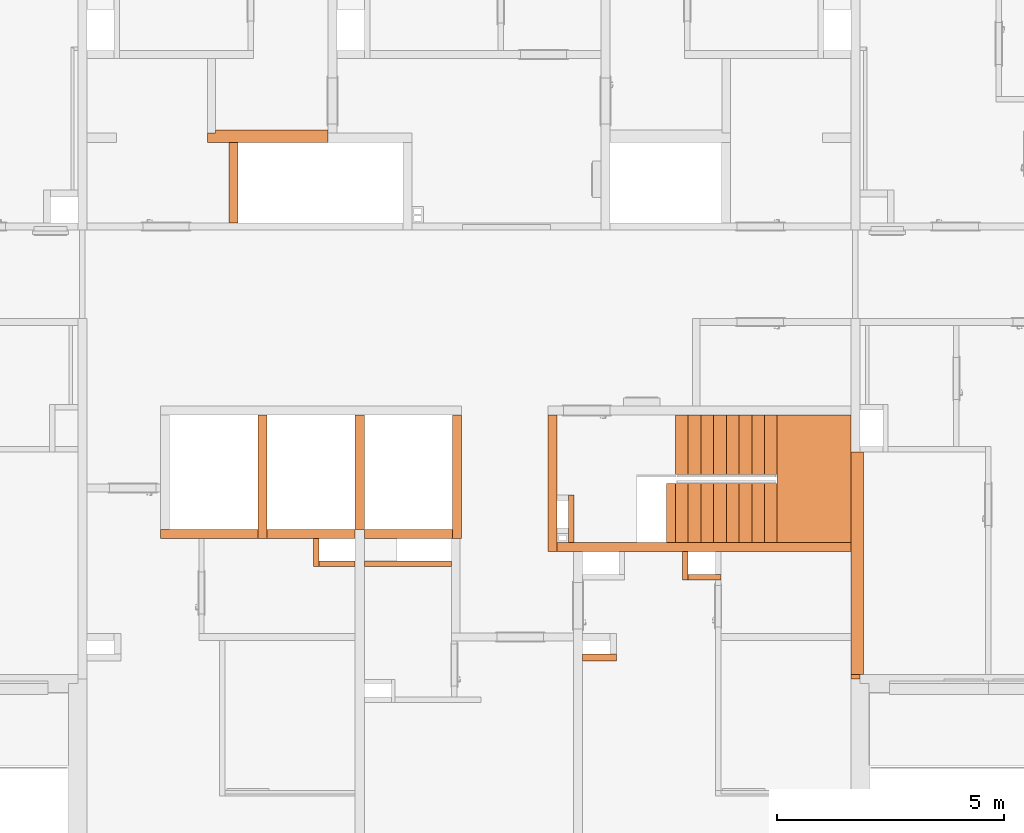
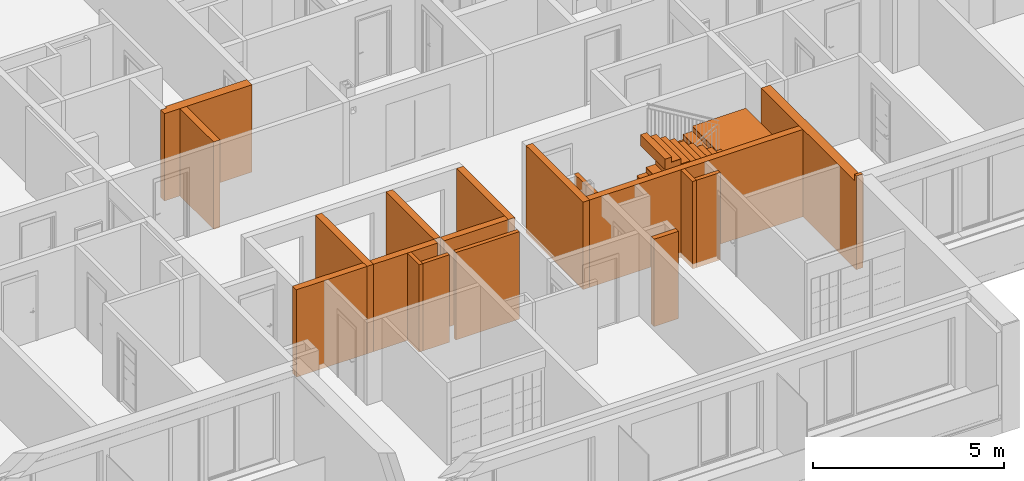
# One storey, part 58 of 67: 17 proxies.
"""IFC2X3 building model written with IfcOpenShell, lengths in millimetres."""

from ifc_helpers import new_model, entity, si_unit, converted_unit, derived_unit, money_unit, direction, frame, origin_with_axes, place, context, subcontext, project, spatial, faceted_brep, material, material_list, type_object, element, save


model = new_model("IFC2X3")

# Units and contexts
model_context = context("Model", 3, precision=0.01, world=origin_with_axes(), true_north=direction((0.34421633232, 0.938890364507)))
body_context = subcontext(model_context, "Body", "Model", "MODEL_VIEW")
ifc_project = project(units=[si_unit("LENGTHUNIT", "METRE", prefix="MILLI"), si_unit("AREAUNIT", "SQUARE_METRE"), si_unit("VOLUMEUNIT", "CUBIC_METRE"), converted_unit("PLANEANGLEUNIT", "DEGREE", entity("IfcPlaneAngleMeasure", 0.0174532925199), si_unit("PLANEANGLEUNIT", "RADIAN"), dimensions=[0, 0, 0, 0, 0, 0, 0]), si_unit("SOLIDANGLEUNIT", "STERADIAN"), money_unit("USD"), converted_unit("TIMEUNIT", "Year", entity("IfcTimeMeasure", 31556926.0), si_unit("TIMEUNIT", "SECOND"), dimensions=[0, 0, 1, 0, 0, 0, 0]), si_unit("MASSUNIT", "GRAM", prefix="KILO"), si_unit("THERMODYNAMICTEMPERATUREUNIT", "DEGREE_CELSIUS"), si_unit("LUMINOUSINTENSITYUNIT", "LUMEN"), si_unit("ENERGYUNIT", "JOULE", prefix="MEGA"), derived_unit("THERMALCONDUCTANCEUNIT", [(si_unit("POWERUNIT", "WATT"), 1), (si_unit("LENGTHUNIT", "METRE"), -1), (si_unit("THERMODYNAMICTEMPERATUREUNIT", "KELVIN"), -1)]), derived_unit("SPECIFICHEATCAPACITYUNIT", [(si_unit("ENERGYUNIT", "JOULE"), 1), (si_unit("MASSUNIT", "GRAM", prefix="KILO"), -1), (si_unit("THERMODYNAMICTEMPERATUREUNIT", "KELVIN"), -1)]), derived_unit("MASSDENSITYUNIT", [(si_unit("MASSUNIT", "GRAM", prefix="KILO"), 1), (si_unit("VOLUMEUNIT", "CUBIC_METRE"), -1)])], contexts=[model_context])

# Site, building, storey
site_placement = place(None, origin_with_axes())
site = spatial("IfcSite", under=ifc_project, at=site_placement, Name="USTRONIE MORSKIE", CompositionType="ELEMENT")
building_placement = place(site_placement, origin_with_axes())
building = spatial("IfcBuilding", under=site, at=building_placement, Name="Budynek", CompositionType="ELEMENT")
storey_placement = place(building_placement, frame((0.0, 0.0, 4000.0), z_axis=(0.0, 0.0, 1.0), x_axis=(1.0, 0.0, 0.0)))
storey = spatial("IfcBuildingStorey", under=building, at=storey_placement, Name="PIĘTRO 1", CompositionType="ELEMENT", Elevation=4000.0)

# Proxies
ifc_material_1 = material(Name="Bloczki silikatowe")
building_element_proxy_type_1 = type_object("IfcBuildingElementProxyType", Name="Bloczki silikatowe 120", PredefinedType="NOTDEFINED")
proxy_1_placement = place(storey_placement, frame((392637.920919, 729201.199036, -160.0), z_axis=(0.0, 0.0, 1.0), x_axis=(1.0, 0.0, 0.0)))
element("IfcBuildingElementProxy", 1, at=proxy_1_placement, inside=storey, type_object=building_element_proxy_type_1, material=ifc_material_1, Name="SW-04", context=body_context, shape_type="Brep", body=[
    faceted_brep([(720.0, -120.0, 2800.0), (720.0, 0.0, 2800.0), (0.0, 0.0, 2800.0), (0.0, -120.0, 2800.0), (720.0, -120.0, 0.0), (720.0, 0.0, 0.0), (0.0, 0.0, 0.0), (0.0, -120.0, 0.0)], [[[0, 1, 2, 3]], [[1, 0, 4, 5]], [[1, 5, 6, 2]], [[7, 3, 2, 6]], [[4, 0, 3, 7]], [[5, 4, 7, 6]]]),
])
proxy_2_placement = place(storey_placement, frame((385417.920919, 729491.199036, -160.0), z_axis=(0.0, 0.0, 1.0), x_axis=(-1.0, 0.0, 0.0)))
element("IfcBuildingElementProxy", 2, at=proxy_2_placement, inside=storey, type_object=building_element_proxy_type_1, material=ifc_material_1, Name="SW-04", context=body_context, shape_type="Brep", body=[
    faceted_brep([(900.00090117, 120.0, 0.0), (900.00090117, 0.0, 0.0), (100.0, 0.0, 0.0), (100.0, 120.0, 0.0), (900.00090117, 120.0, 2800.0), (900.00090117, 0.0, 2800.0), (100.0, 0.0, 2800.0), (100.0, 120.0, 2800.0)], [[[0, 1, 2, 3]], [[1, 0, 4, 5]], [[1, 5, 6, 2]], [[7, 3, 2, 6]], [[4, 0, 3, 7]], [[5, 4, 7, 6]]]),
])
proxy_3_placement = place(storey_placement, frame((387527.920919, 729491.199036, -160.0), z_axis=(0.0, 0.0, 1.0), x_axis=(-1.0, 0.0, 0.0)))
element("IfcBuildingElementProxy", 3, at=proxy_3_placement, inside=storey, type_object=building_element_proxy_type_1, material=ifc_material_1, Name="SW-04", context=body_context, shape_type="Brep", body=[
    faceted_brep([(90.0, 0.0, 0.0), (2010.0, 0.0, 0.0), (2010.0, 0.0, 2800.0), (90.0, 0.0, 2800.0), (90.0, 120.0, 0.0), (2010.0, 120.0, 0.0), (2010.0, 120.0, 2800.0), (90.0, 120.0, 2800.0)], [[[0, 1, 2, 3]], [[4, 5, 1, 0]], [[5, 6, 2, 1]], [[3, 2, 6, 7]], [[7, 4, 0, 3]], [[7, 6, 5, 4]]]),
])
proxy_4_placement = place(storey_placement, frame((384517.920018, 729491.199036, -160.0), z_axis=(0.0, 0.0, 1.0), x_axis=(0.0, 1.0, 0.0)))
element("IfcBuildingElementProxy", 4, at=proxy_4_placement, inside=storey, type_object=building_element_proxy_type_1, material=ifc_material_1, Name="SW-04", context=body_context, shape_type="Brep", body=[
    faceted_brep([(500.0, 120.0, 0.0), (500.0, 0.0, 0.0), (-120.0, 0.0, 0.0), (-120.0, 120.0, 0.0), (500.0, 120.0, 2800.0), (500.0, 0.0, 2800.0), (-120.0, 0.0, 2800.0), (-120.0, 120.0, 2800.0)], [[[0, 1, 2, 3]], [[1, 0, 4, 5]], [[1, 5, 6, 2]], [[7, 3, 2, 6]], [[4, 0, 3, 7]], [[5, 4, 7, 6]]]),
])
proxy_5_placement = place(storey_placement, frame((392637.920919, 729801.199036, -160.0), z_axis=(0.0, 0.0, 1.0), x_axis=(0.0, -1.0, 0.0)))
element("IfcBuildingElementProxy", 5, at=proxy_5_placement, inside=storey, type_object=building_element_proxy_type_1, material=ifc_material_1, Name="SW-04", context=body_context, shape_type="Brep", body=[
    faceted_brep([(720.0, -120.0, 2800.0), (720.0, 0.0, 2800.0), (100.0, 0.0, 2800.0), (100.0, -120.0, 2800.0), (720.0, -120.0, 0.0), (720.0, 0.0, 0.0), (100.0, 0.0, 0.0), (100.0, -120.0, 0.0)], [[[0, 1, 2, 3]], [[1, 0, 4, 5]], [[1, 5, 6, 2]], [[7, 3, 2, 6]], [[4, 0, 3, 7]], [[5, 4, 7, 6]]]),
])
proxy_6_placement = place(storey_placement, frame((390007.920919, 730821.199036, -230.0), z_axis=(0.0, 0.0, 1.0), x_axis=(0.0, -1.0, 0.0)))
element("IfcBuildingElementProxy", 6, at=proxy_6_placement, inside=storey, type_object=building_element_proxy_type_1, material=ifc_material_1, Name="SW-04", context=body_context, shape_type="Brep", body=[
    faceted_brep([(920.0, 120.0, 2870.0), (920.0, 120.0, 70.0), (-120.0, 120.0, 70.0), (-120.0, 120.0, 2870.0), (920.0, 0.0, 2870.0), (920.0, 0.0, 70.0), (-120.0, 0.0, 70.0), (-120.0, 0.0, 2870.0)], [[[0, 1, 2, 3]], [[4, 5, 1, 0]], [[5, 6, 2, 1]], [[3, 2, 6, 7]], [[3, 7, 4, 0]], [[7, 6, 5, 4]]]),
])
ifc_material_2 = material(Name="Beton konstrukcyjny B25")
ifc_material_3 = material(Name="Płytki podłogowe")
ifc_material_list_1 = material_list([ifc_material_2, ifc_material_2, ifc_material_2, ifc_material_3, ifc_material_3, ifc_material_3, ifc_material_3, ifc_material_3, ifc_material_3, ifc_material_3, ifc_material_3, ifc_material_3, ifc_material_3, ifc_material_3, ifc_material_3, ifc_material_3, ifc_material_3, ifc_material_3, ifc_material_3, ifc_material_3])
building_element_proxy_type_2 = type_object("IfcBuildingElementProxyType", Name="Typ schodów", PredefinedType="NOTDEFINED")
proxy_7_placement = place(storey_placement, frame((392357.920919, 732701.199036, 0.0), z_axis=(0.0, 0.0, 1.0), x_axis=(1.0, 0.0, 0.0)))
element("IfcBuildingElementProxy", 7, at=proxy_7_placement, inside=storey, type_object=building_element_proxy_type_2, material=ifc_material_list_1, Name="SCH2", context=body_context, shape_type="Brep", body=[
    faceted_brep([(2240.0, -1299.99999404, 1318.33333333), (2240.0, 0.0, 1318.33333333), (1960.0, 0.0, 1318.33333333), (1960.0, -1300.0, 1318.33333333), (2240.0, -1299.99999404, 1325.0), (2240.0, 0.0, 1325.0), (2240.0, 0.0, 1178.68362579), (2146.66666667, 0.0, 1123.12807024), (2053.33333333, 0.0, 1067.57251468), (1960.0, 0.0, 1012.01695913), (1866.66666667, 0.0, 956.46140357), (1773.33333333, 0.0, 900.905848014), (1680.0, 0.0, 845.350292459), (1586.66666667, 0.0, 789.794736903), (1493.33333333, 0.0, 734.239181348), (1400.0, 0.0, 678.683625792), (1306.66666667, 0.0, 623.128070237), (1213.33333333, 0.0, 567.572514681), (1120.0, 0.0, 512.016959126), (1026.66666667, 0.0, 456.46140357), (933.333333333, 0.0, 400.905848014), (840.0, 0.0, 345.350292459), (746.666666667, 0.0, 289.794736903), (653.333333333, 0.0, 234.239181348), (560.0, 0.0, 178.683625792), (466.666666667, 0.0, 123.128070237), (373.333333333, 0.0, 67.5725146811), (280.0, 0.0, 12.0169591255), (200.0, 0.0, -35.6020884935), (200.0, 0.0, -360.0), (0.0, 0.0, -360.0), (0.0, 0.0, -154.649707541), (0.0, 0.0, 151.666666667), (280.0, 0.0, 151.666666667), (280.0, 0.0, 318.333333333), (560.0, 0.0, 318.333333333), (560.0, 0.0, 485.0), (840.0, 0.0, 485.0), (840.0, 0.0, 651.666666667), (1120.0, 0.0, 651.666666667), (1120.0, 0.0, 818.333333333), (1400.0, 0.0, 818.333333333), (1400.0, 0.0, 985.0), (1680.0, 0.0, 985.0), (1680.0, 0.0, 1151.66666667), (1960.0, 0.0, 1151.66666667), (2485.81150867, 0.0, 1325.0), (1960.0, -1300.0, 1151.66666667), (1680.0, -1300.0, 1151.66666667), (1680.0, -1300.0, 985.0), (1400.0, -1300.0, 985.0), (1400.0, -1300.0, 818.333333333), (1120.0, -1300.0, 818.333333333), (1120.0, -1300.0, 651.666666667), (840.0, -1300.0, 651.666666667), (840.0, -1300.0, 485.0), (560.0, -1300.0, 485.0), (560.0, -1300.0, 318.333333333), (280.0, -1300.0, 318.333333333), (280.0, -1300.0, 151.666666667), (0.0, -1300.0, 151.666666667), (0.0, -1300.0, -154.649707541), (0.0, -1300.0, -360.0), (200.0, -1300.0, -360.0), (200.0, -1300.0, -35.6020884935), (280.0, -1300.0, 12.0169591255), (373.333333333, -1300.0, 67.5725146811), (466.666666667, -1300.0, 123.128070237), (560.0, -1300.0, 178.683625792), (653.333333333, -1300.0, 234.239181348), (746.666666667, -1300.0, 289.794736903), (840.0, -1300.0, 345.350292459), (933.333333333, -1300.0, 400.905848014), (1026.66666667, -1300.0, 456.46140357), (1120.0, -1300.0, 512.016959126), (1213.33333333, -1300.0, 567.572514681), (1306.66666667, -1300.0, 623.128070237), (1400.0, -1300.0, 678.683625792), (1493.33333333, -1300.0, 734.239181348), (1586.66666667, -1300.0, 789.794736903), (1680.0, -1300.0, 845.350292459), (1773.33333333, -1300.0, 900.905848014), (1866.66666667, -1300.0, 956.46140357), (1960.0, -1300.0, 1012.01695913), (2053.33333333, -1300.0, 1067.57251468), (2146.66666667, -1300.0, 1123.12807024), (2240.0, -1299.99999404, 1178.68362579), (2485.81150867, -1299.99999404, 1325.0)], [[[0, 1, 2, 3]], [[1, 0, 4, 5]], [[6, 7, 8, 9, 10, 11, 12, 13, 14, 15, 16, 17, 18, 19, 20, 21, 22, 23, 24, 25, 26, 27, 28, 29, 30, 31, 32, 33, 34, 35, 36, 37, 38, 39, 40, 41, 42, 43, 44, 45, 2, 1, 5, 46]], [[47, 3, 2, 45]], [[0, 3, 47, 48, 49, 50, 51, 52, 53, 54, 55, 56, 57, 58, 59, 60, 61, 62, 63, 64, 65, 66, 67, 68, 69, 70, 71, 72, 73, 74, 75, 76, 77, 78, 79, 80, 81, 82, 83, 84, 85, 86, 87, 4]], [[46, 5, 4, 87]], [[86, 85, 7, 6, 46, 87]], [[85, 84, 8, 7]], [[84, 83, 9, 8]], [[83, 82, 10, 9]], [[82, 81, 11, 10]], [[81, 80, 12, 11]], [[80, 79, 13, 12]], [[79, 78, 14, 13]], [[78, 77, 15, 14]], [[77, 76, 16, 15]], [[76, 75, 17, 16]], [[75, 74, 18, 17]], [[74, 73, 19, 18]], [[73, 72, 20, 19]], [[72, 71, 21, 20]], [[71, 70, 22, 21]], [[70, 69, 23, 22]], [[69, 68, 24, 23]], [[68, 67, 25, 24]], [[67, 66, 26, 25]], [[66, 65, 27, 26]], [[65, 64, 28, 27]], [[29, 28, 64, 63]], [[29, 63, 62, 30]], [[62, 61, 31, 30]], [[32, 31, 61, 60]], [[33, 32, 60, 59]], [[59, 58, 34, 33]], [[35, 34, 58, 57]], [[57, 56, 36, 35]], [[37, 36, 56, 55]], [[55, 54, 38, 37]], [[39, 38, 54, 53]], [[53, 52, 40, 39]], [[41, 40, 52, 51]], [[51, 50, 42, 41]], [[43, 42, 50, 49]], [[49, 48, 44, 43]], [[45, 44, 48, 47]]]),
    faceted_brep([(2274.18848199, -1500.00000596, 1485.0), (2274.18848199, -2800.0, 1485.0), (3859.99998808, -2800.0, 1485.0), (3859.99998808, 0.0, 1485.0), (2240.0, 0.0, 1485.0), (2240.0, -1299.99999404, 1485.0), (2240.0, -1500.00000596, 1485.0), (2274.18848199, -1500.00000596, 1325.0), (2274.18848199, -2800.0, 1325.0), (3859.99998808, -2800.0, 1325.0), (3859.99998808, 0.0, 1325.0), (2240.0, 0.0, 1325.0), (2240.0, -1299.99999404, 1325.0), (2240.0, -1500.00000596, 1325.0)], [[[0, 1, 2, 3, 4, 5, 6]], [[1, 0, 7, 8]], [[1, 8, 9, 2]], [[2, 9, 10, 3]], [[3, 10, 11, 4]], [[4, 11, 12, 5]], [[13, 6, 5, 12]], [[0, 6, 13, 7]], [[7, 13, 12, 11, 10, 9, 8]]]),
    faceted_brep([(93.3333333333, -2800.0, 2623.12807024), (64.9884913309, -2800.0, 2640.0), (64.9884913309, -1500.0, 2640.0), (93.3333333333, -1500.0, 2623.12807024), (-200.0, -2800.0, 2640.0), (186.666666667, -2800.0, 2567.57251468), (280.0, -2800.0, 2512.01695913), (373.333333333, -2800.0, 2456.46140357), (466.666666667, -2800.0, 2400.90584801), (560.0, -2800.0, 2345.35029246), (653.333333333, -2800.0, 2289.7947369), (746.666666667, -2800.0, 2234.23918135), (840.0, -2800.0, 2178.68362579), (933.333333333, -2800.0, 2123.12807024), (1026.66666667, -2800.0, 2067.57251468), (1120.0, -2800.0, 2012.01695913), (1213.33333333, -2800.0, 1956.46140357), (1306.66666667, -2800.0, 1900.90584801), (1400.0, -2800.0, 1845.35029246), (1493.33333333, -2800.0, 1789.7947369), (1586.66666667, -2800.0, 1734.23918134), (1680.0, -2800.0, 1678.68362578), (1773.33333333, -2800.0, 1623.12807017), (1866.66666667, -2800.0, 1567.57251456), (1960.0, -2800.0, 1512.01695892), (2053.33333284, -2800.0, 1456.46140346), (2146.66666567, -2800.0, 1400.90584797), (2240.0, -2800.0, 1345.35029157), (2274.18848199, -2800.0, 1325.00000467), (2274.18848199, -2800.0, 1485.0), (2240.0, -2800.0, 1485.0), (2239.99999851, -2800.0, 1651.66666667), (1960.0, -2800.0, 1651.66666667), (1960.0, -2800.0, 1818.33333333), (1680.0, -2800.0, 1818.33333333), (1680.0, -2800.0, 1985.0), (1400.0, -2800.0, 1985.0), (1400.0, -2800.0, 2151.66666667), (1120.0, -2800.0, 2151.66666667), (1120.0, -2800.0, 2318.33333333), (840.0, -2800.0, 2318.33333333), (840.0, -2800.0, 2485.0), (560.0, -2800.0, 2485.0), (560.0, -2800.0, 2651.66666667), (280.0, -2800.0, 2651.66666667), (280.0, -2800.0, 2818.33333333), (0.0, -2800.0, 2818.33333333), (0.0, -2800.0, 2985.0), (-200.0, -2800.0, 2985.0), (-200.0, -1500.0, 2640.0), (-200.0, -1500.0, 2985.0), (0.0, -1500.0, 2985.0), (0.0, -1500.0, 2818.33333333), (280.0, -1500.0, 2818.33333333), (280.0, -1500.0, 2651.66666667), (560.0, -1500.0, 2651.66666667), (560.0, -1500.0, 2485.0), (840.0, -1500.0, 2485.0), (840.0, -1500.0, 2318.33333333), (1120.0, -1500.0, 2318.33333333), (1120.0, -1500.0, 2151.66666667), (1400.0, -1500.0, 2151.66666667), (1400.0, -1500.0, 1985.0), (1680.0, -1500.0, 1985.0), (1680.0, -1500.0, 1818.33333333), (1960.0, -1500.0, 1818.33333333), (1960.0, -1500.0, 1651.66666667), (2239.99999851, -1500.0, 1651.66666667), (2240.0, -1500.00000596, 1485.0), (2274.18848199, -1500.00000596, 1485.0), (2274.18848199, -1500.00000596, 1325.00000467), (2240.0, -1500.00000596, 1345.35029157), (2146.66666567, -1500.0, 1400.90584797), (2053.33333284, -1500.0, 1456.46140346), (1960.0, -1500.0, 1512.01695892), (1866.66666667, -1500.0, 1567.57251456), (1773.33333333, -1500.0, 1623.12807017), (1680.0, -1500.0, 1678.68362578), (1586.66666667, -1500.0, 1734.23918134), (1493.33333333, -1500.0, 1789.7947369), (1400.0, -1500.0, 1845.35029246), (1306.66666667, -1500.0, 1900.90584801), (1213.33333333, -1500.0, 1956.46140357), (1120.0, -1500.0, 2012.01695913), (1026.66666667, -1500.0, 2067.57251468), (933.333333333, -1500.0, 2123.12807024), (840.0, -1500.0, 2178.68362579), (746.666666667, -1500.0, 2234.23918135), (653.333333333, -1500.0, 2289.7947369), (560.0, -1500.0, 2345.35029246), (466.666666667, -1500.0, 2400.90584801), (373.333333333, -1500.0, 2456.46140357), (280.0, -1500.0, 2512.01695913), (186.666666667, -1500.0, 2567.57251468)], [[[0, 1, 2, 3]], [[4, 1, 0, 5, 6, 7, 8, 9, 10, 11, 12, 13, 14, 15, 16, 17, 18, 19, 20, 21, 22, 23, 24, 25, 26, 27, 28, 29, 30, 31, 32, 33, 34, 35, 36, 37, 38, 39, 40, 41, 42, 43, 44, 45, 46, 47, 48]], [[49, 2, 1, 4]], [[3, 2, 49, 50, 51, 52, 53, 54, 55, 56, 57, 58, 59, 60, 61, 62, 63, 64, 65, 66, 67, 68, 69, 70, 71, 72, 73, 74, 75, 76, 77, 78, 79, 80, 81, 82, 83, 84, 85, 86, 87, 88, 89, 90, 91, 92, 93]], [[93, 5, 0, 3]], [[92, 6, 5, 93]], [[91, 7, 6, 92]], [[90, 8, 7, 91]], [[89, 9, 8, 90]], [[88, 10, 9, 89]], [[87, 11, 10, 88]], [[86, 12, 11, 87]], [[85, 13, 12, 86]], [[84, 14, 13, 85]], [[83, 15, 14, 84]], [[82, 16, 15, 83]], [[81, 17, 16, 82]], [[80, 18, 17, 81]], [[79, 19, 18, 80]], [[78, 20, 19, 79]], [[77, 21, 20, 78]], [[76, 22, 21, 77]], [[75, 23, 22, 76]], [[74, 24, 23, 75]], [[73, 25, 24, 74]], [[72, 26, 25, 73]], [[26, 72, 71, 27]], [[70, 28, 27, 71]], [[29, 28, 70, 69]], [[29, 69, 68, 30]], [[67, 31, 30, 68]], [[66, 32, 31, 67]], [[32, 66, 65, 33]], [[64, 34, 33, 65]], [[34, 64, 63, 35]], [[62, 36, 35, 63]], [[36, 62, 61, 37]], [[60, 38, 37, 61]], [[38, 60, 59, 39]], [[58, 40, 39, 59]], [[40, 58, 57, 41]], [[56, 42, 41, 57]], [[42, 56, 55, 43]], [[54, 44, 43, 55]], [[44, 54, 53, 45]], [[53, 52, 46, 45]], [[47, 46, 52, 51]], [[47, 51, 50, 48]], [[4, 48, 50, 49]]]),
    faceted_brep([(0.0, 0.0, 156.666666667), (0.0, -1300.0, 156.666666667), (0.0, -1300.0, 166.666666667), (0.0, 0.0, 166.666666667), (280.0, 0.0, 156.666666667), (280.0, -1300.0, 156.666666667), (280.0, -1300.0, 166.666666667), (280.0, 0.0, 166.666666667)], [[[0, 1, 2, 3]], [[0, 4, 5, 1]], [[1, 5, 6, 2]], [[3, 2, 6, 7]], [[4, 0, 3, 7]], [[5, 4, 7, 6]]]),
    faceted_brep([(280.0, 0.0, 323.333333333), (280.0, -1300.0, 323.333333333), (280.0, -1300.0, 333.333333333), (280.0, 0.0, 333.333333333), (560.0, 0.0, 323.333333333), (560.0, -1300.0, 323.333333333), (560.0, -1300.0, 333.333333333), (560.0, 0.0, 333.333333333)], [[[0, 1, 2, 3]], [[0, 4, 5, 1]], [[1, 5, 6, 2]], [[3, 2, 6, 7]], [[4, 0, 3, 7]], [[5, 4, 7, 6]]]),
    faceted_brep([(560.0, 0.0, 490.0), (560.0, -1300.0, 490.0), (560.0, -1300.0, 500.0), (560.0, 0.0, 500.0), (840.0, 0.0, 490.0), (840.0, -1300.0, 490.0), (840.0, -1300.0, 500.0), (840.0, 0.0, 500.0)], [[[0, 1, 2, 3]], [[0, 4, 5, 1]], [[1, 5, 6, 2]], [[3, 2, 6, 7]], [[4, 0, 3, 7]], [[5, 4, 7, 6]]]),
    faceted_brep([(840.0, 0.0, 656.666666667), (840.0, -1300.0, 656.666666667), (840.0, -1300.0, 666.666666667), (840.0, 0.0, 666.666666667), (1120.0, 0.0, 656.666666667), (1120.0, -1300.0, 656.666666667), (1120.0, -1300.0, 666.666666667), (1120.0, 0.0, 666.666666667)], [[[0, 1, 2, 3]], [[0, 4, 5, 1]], [[1, 5, 6, 2]], [[3, 2, 6, 7]], [[4, 0, 3, 7]], [[5, 4, 7, 6]]]),
    faceted_brep([(1120.0, 0.0, 823.333333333), (1120.0, -1300.0, 823.333333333), (1120.0, -1300.0, 833.333333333), (1120.0, 0.0, 833.333333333), (1400.0, 0.0, 823.333333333), (1400.0, -1300.0, 823.333333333), (1400.0, -1300.0, 833.333333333), (1400.0, 0.0, 833.333333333)], [[[0, 1, 2, 3]], [[0, 4, 5, 1]], [[1, 5, 6, 2]], [[3, 2, 6, 7]], [[4, 0, 3, 7]], [[5, 4, 7, 6]]]),
    faceted_brep([(1400.0, 0.0, 990.0), (1400.0, -1300.0, 990.0), (1400.0, -1300.0, 1000.0), (1400.0, 0.0, 1000.0), (1680.0, 0.0, 990.0), (1680.0, -1300.0, 990.0), (1680.0, -1300.0, 1000.0), (1680.0, 0.0, 1000.0)], [[[0, 1, 2, 3]], [[0, 4, 5, 1]], [[1, 5, 6, 2]], [[3, 2, 6, 7]], [[4, 0, 3, 7]], [[5, 4, 7, 6]]]),
    faceted_brep([(1680.0, 0.0, 1156.66666667), (1680.0, -1300.0, 1156.66666667), (1680.0, -1300.0, 1166.66666667), (1680.0, 0.0, 1166.66666667), (1960.0, 0.0, 1156.66666667), (1960.0, -1300.0, 1156.66666667), (1960.0, -1300.0, 1166.66666667), (1960.0, 0.0, 1166.66666667)], [[[0, 1, 2, 3]], [[0, 4, 5, 1]], [[1, 5, 6, 2]], [[3, 2, 6, 7]], [[4, 0, 3, 7]], [[5, 4, 7, 6]]]),
    faceted_brep([(1960.0, 0.0, 1323.33333333), (1960.0, -1300.0, 1323.33333333), (1960.0, -1300.0, 1333.33333333), (1960.0, 0.0, 1333.33333333), (2240.0, 0.0, 1323.33333333), (2240.0, -1300.0, 1323.33333333), (2240.0, -1300.0, 1333.33333333), (2240.0, 0.0, 1333.33333333)], [[[0, 1, 2, 3]], [[0, 4, 5, 1]], [[1, 5, 6, 2]], [[3, 2, 6, 7]], [[4, 0, 3, 7]], [[5, 4, 7, 6]]]),
    faceted_brep([(3859.99998808, 0.0, 1490.0), (2240.0, 0.0, 1490.0), (2240.0, 0.0, 1500.0), (3859.99998808, 0.0, 1500.0), (3859.99998808, -2800.0, 1490.0), (2240.0, -2800.0, 1490.0), (2240.0, -1500.00000596, 1490.0), (2240.0, -1299.99999404, 1490.0), (2240.0, -1299.99999404, 1500.0), (2240.0, -1500.00000596, 1500.0), (2240.0, -2800.0, 1500.0), (3859.99998808, -2800.0, 1500.0)], [[[0, 1, 2, 3]], [[0, 4, 5, 6, 7, 1]], [[1, 7, 8, 2]], [[3, 2, 8, 9, 10, 11]], [[4, 0, 3, 11]], [[5, 4, 11, 10]], [[6, 5, 10, 9]], [[7, 6, 9, 8]]]),
    faceted_brep([(1960.0, -2800.0, 1656.66666667), (2239.99999851, -2800.0, 1656.66666667), (2239.99999851, -2800.0, 1666.66666667), (1960.0, -2800.0, 1666.66666667), (1960.0, -1500.0, 1656.66666667), (2239.99999851, -1500.0, 1656.66666667), (2239.99999851, -1500.0, 1666.66666667), (1960.0, -1500.0, 1666.66666667)], [[[0, 1, 2, 3]], [[0, 4, 5, 1]], [[1, 5, 6, 2]], [[3, 2, 6, 7]], [[4, 0, 3, 7]], [[5, 4, 7, 6]]]),
    faceted_brep([(1960.0, -2800.0, 1823.33333333), (1960.0, -1500.0, 1823.33333333), (1960.0, -1500.0, 1833.33333333), (1960.0, -2800.0, 1833.33333333), (1680.0, -2800.0, 1823.33333333), (1680.0, -1500.0, 1823.33333333), (1680.0, -1500.0, 1833.33333333), (1680.0, -2800.0, 1833.33333333)], [[[0, 1, 2, 3]], [[0, 4, 5, 1]], [[1, 5, 6, 2]], [[3, 2, 6, 7]], [[4, 0, 3, 7]], [[5, 4, 7, 6]]]),
    faceted_brep([(1680.0, -2800.0, 1990.0), (1680.0, -1500.0, 1990.0), (1680.0, -1500.0, 2000.0), (1680.0, -2800.0, 2000.0), (1400.0, -2800.0, 1990.0), (1400.0, -1500.0, 1990.0), (1400.0, -1500.0, 2000.0), (1400.0, -2800.0, 2000.0)], [[[0, 1, 2, 3]], [[0, 4, 5, 1]], [[1, 5, 6, 2]], [[3, 2, 6, 7]], [[4, 0, 3, 7]], [[5, 4, 7, 6]]]),
    faceted_brep([(1400.0, -2800.0, 2156.66666667), (1400.0, -1500.0, 2156.66666667), (1400.0, -1500.0, 2166.66666667), (1400.0, -2800.0, 2166.66666667), (1120.0, -2800.0, 2156.66666667), (1120.0, -1500.0, 2156.66666667), (1120.0, -1500.0, 2166.66666667), (1120.0, -2800.0, 2166.66666667)], [[[0, 1, 2, 3]], [[0, 4, 5, 1]], [[1, 5, 6, 2]], [[3, 2, 6, 7]], [[4, 0, 3, 7]], [[5, 4, 7, 6]]]),
    faceted_brep([(1120.0, -2800.0, 2323.33333333), (1120.0, -1500.0, 2323.33333333), (1120.0, -1500.0, 2333.33333333), (1120.0, -2800.0, 2333.33333333), (840.0, -2800.0, 2323.33333333), (840.0, -1500.0, 2323.33333333), (840.0, -1500.0, 2333.33333333), (840.0, -2800.0, 2333.33333333)], [[[0, 1, 2, 3]], [[0, 4, 5, 1]], [[1, 5, 6, 2]], [[3, 2, 6, 7]], [[4, 0, 3, 7]], [[5, 4, 7, 6]]]),
    faceted_brep([(840.0, -2800.0, 2490.0), (840.0, -1500.0, 2490.0), (840.0, -1500.0, 2500.0), (840.0, -2800.0, 2500.0), (560.0, -2800.0, 2490.0), (560.0, -1500.0, 2490.0), (560.0, -1500.0, 2500.0), (560.0, -2800.0, 2500.0)], [[[0, 1, 2, 3]], [[0, 4, 5, 1]], [[1, 5, 6, 2]], [[3, 2, 6, 7]], [[4, 0, 3, 7]], [[5, 4, 7, 6]]]),
    faceted_brep([(560.0, -2800.0, 2656.66666667), (560.0, -1500.0, 2656.66666667), (560.0, -1500.0, 2666.66666667), (560.0, -2800.0, 2666.66666667), (280.0, -2800.0, 2656.66666667), (280.0, -1500.0, 2656.66666667), (280.0, -1500.0, 2666.66666667), (280.0, -2800.0, 2666.66666667)], [[[0, 1, 2, 3]], [[0, 4, 5, 1]], [[1, 5, 6, 2]], [[3, 2, 6, 7]], [[4, 0, 3, 7]], [[5, 4, 7, 6]]]),
    faceted_brep([(280.0, -2800.0, 2823.33333333), (280.0, -1500.0, 2823.33333333), (280.0, -1500.0, 2833.33333333), (280.0, -2800.0, 2833.33333333), (0.0, -2800.0, 2823.33333333), (0.0, -1500.0, 2823.33333333), (0.0, -1500.0, 2833.33333333), (0.0, -2800.0, 2833.33333333)], [[[0, 1, 2, 3]], [[0, 4, 5, 1]], [[1, 5, 6, 2]], [[3, 2, 6, 7]], [[4, 0, 3, 7]], [[5, 4, 7, 6]]]),
])
building_element_proxy_type_3 = type_object("IfcBuildingElementProxyType", Name="Bloczki silikatowe 150", PredefinedType="NOTDEFINED")
proxy_8_placement = place(storey_placement, frame((390217.920919, 727451.199036, -160.0), z_axis=(0.0, 0.0, 1.0), x_axis=(1.0, 0.0, 0.0)))
element("IfcBuildingElementProxy", 8, at=proxy_8_placement, inside=storey, type_object=building_element_proxy_type_3, material=ifc_material_1, Name="SW-03", context=body_context, shape_type="Brep", body=[
    faceted_brep([(850.00090117, -150.0, 2800.0), (850.00090117, 0.0, 2800.0), (100.0, 0.0, 2800.0), (100.0, -150.0, 2800.0), (850.00090117, -150.0, 0.0), (850.00090117, 0.0, 0.0), (100.0, 0.0, 0.0), (100.0, -150.0, 0.0)], [[[0, 1, 2, 3]], [[1, 0, 4, 5]], [[1, 5, 6, 2]], [[7, 3, 2, 6]], [[4, 0, 3, 7]], [[5, 4, 7, 6]]]),
])
building_element_proxy_type_4 = type_object("IfcBuildingElementProxyType", Name="Beton konstrukcyjny B25 200", PredefinedType="NOTDEFINED")
proxy_9_placement = place(storey_placement, frame((387557.920919, 730091.199036, -160.0), z_axis=(0.0, 0.0, 1.0), x_axis=(-1.0, 0.0, 0.0)))
element("IfcBuildingElementProxy", 9, at=proxy_9_placement, inside=storey, type_object=building_element_proxy_type_4, material=ifc_material_2, Name="SW-01", context=body_context, shape_type="Brep", body=[
    faceted_brep([(4180.0, -100.0, 0.0), (4180.0, -100.0, 2800.0), (2240.0, -100.0, 2800.0), (2240.0, -100.0, 0.0), (4180.0, 100.0, 0.0), (4180.0, 100.0, 2800.0), (2240.0, 100.0, 2800.0), (2240.0, 100.0, 0.0)], [[[0, 1, 2, 3]], [[4, 5, 1, 0]], [[5, 6, 2, 1]], [[3, 2, 6, 7]], [[4, 0, 3, 7]], [[7, 6, 5, 4]]]),
    faceted_brep([(6520.0, -100.0, 2800.0), (6420.0, -100.0, 2800.0), (4380.0, -100.0, 2800.0), (4380.0, -100.0, 0.0), (6520.0, -100.0, 0.0), (6520.0, 100.0, 2800.0), (6420.0, 100.0, 2800.0), (4380.0, 100.0, 2800.0), (4380.0, 100.0, 0.0), (6520.0, 100.0, 0.0)], [[[0, 1, 2, 3, 4]], [[5, 6, 1, 0]], [[6, 7, 2, 1]], [[3, 2, 7, 8]], [[3, 8, 9, 4]], [[4, 9, 5, 0]], [[8, 7, 6, 5, 9]]]),
    faceted_brep([(2040.0, -100.0, 0.0), (2040.0, -100.0, 2800.0), (100.0, -100.0, 2800.0), (100.0, -100.0, 0.0), (2040.0, 100.0, 0.0), (2040.0, 100.0, 2800.0), (100.0, 100.0, 2800.0), (100.0, 100.0, 0.0)], [[[0, 1, 2, 3]], [[4, 5, 1, 0]], [[5, 6, 2, 1]], [[3, 2, 6, 7]], [[3, 7, 4, 0]], [[7, 6, 5, 4]]]),
])
proxy_10_placement = place(storey_placement, frame((383277.920919, 732801.199036, -160.0), z_axis=(0.0, 0.0, 1.0), x_axis=(0.0, -1.0, 0.0)))
element("IfcBuildingElementProxy", 10, at=proxy_10_placement, inside=storey, type_object=building_element_proxy_type_4, material=ifc_material_2, Name="SW-01", context=body_context, shape_type="Brep", body=[
    faceted_brep([(100.0, -100.0, 0.0), (100.0, -100.0, 2800.0), (100.0, 100.0, 2800.0), (100.0, 100.0, 0.0), (2810.0, -100.0, 0.0), (2810.0, -100.0, 2800.0), (2810.0, 100.0, 2800.0), (2810.0, 100.0, 0.0)], [[[0, 1, 2, 3]], [[4, 5, 1, 0]], [[5, 6, 2, 1]], [[3, 2, 6, 7]], [[7, 4, 0, 3]], [[7, 6, 5, 4]]]),
])
proxy_11_placement = place(storey_placement, frame((382737.920919, 738801.199036, -160.0), z_axis=(0.0, 0.0, 1.0), x_axis=(0.0, -1.0, 0.0)))
element("IfcBuildingElementProxy", 11, at=proxy_11_placement, inside=storey, type_object=building_element_proxy_type_4, material=ifc_material_2, Name="SW-01", context=body_context, shape_type="Brep", body=[
    faceted_brep([(1870.0, 0.0, 0.0), (1870.0, -200.0, 0.0), (100.0, -200.0, 0.0), (100.0, 0.0, 0.0), (1870.0, 0.0, 2800.0), (1870.0, -200.0, 2800.0), (100.0, -200.0, 2800.0), (100.0, 0.0, 2800.0)], [[[0, 1, 2, 3]], [[1, 0, 4, 5]], [[1, 5, 6, 2]], [[7, 3, 2, 6]], [[4, 0, 3, 7]], [[5, 4, 7, 6]]]),
])
proxy_12_placement = place(storey_placement, frame((385417.920919, 732801.199036, -160.0), z_axis=(0.0, 0.0, 1.0), x_axis=(0.0, -1.0, 0.0)))
element("IfcBuildingElementProxy", 12, at=proxy_12_placement, inside=storey, type_object=building_element_proxy_type_4, material=ifc_material_2, Name="SW-01", context=body_context, shape_type="Brep", body=[
    faceted_brep([(100.0, -100.0, 0.0), (100.0, -100.0, 2800.0), (100.0, 100.0, 2800.0), (100.0, 100.0, 0.0), (2610.0, -100.0, 0.0), (2610.0, -100.0, 2800.0), (2610.0, 100.0, 2800.0), (2610.0, 100.0, 0.0)], [[[0, 1, 2, 3]], [[4, 5, 1, 0]], [[5, 6, 2, 1]], [[3, 2, 6, 7]], [[0, 3, 7, 4]], [[7, 6, 5, 4]]]),
])
proxy_13_placement = place(storey_placement, frame((396317.920919, 729801.199036, -160.0), z_axis=(0.0, 0.0, 1.0), x_axis=(-1.0, 0.0, 0.0)))
element("IfcBuildingElementProxy", 13, at=proxy_13_placement, inside=storey, type_object=building_element_proxy_type_4, material=ifc_material_2, Name="SW-01", context=body_context, shape_type="Brep", body=[
    faceted_brep([(100.0, -100.0, 2800.0), (100.0, -100.0, 0.0), (6560.0, -100.0, 0.0), (6560.0, -100.0, 2800.0), (100.0, 100.0, 2800.0), (100.0, 100.0, 0.0), (6560.0, 100.0, 0.0), (6560.0, 100.0, 2800.0)], [[[0, 1, 2, 3]], [[1, 0, 4, 5]], [[1, 5, 6, 2]], [[6, 7, 3, 2]], [[4, 0, 3, 7]], [[5, 4, 7, 6]]]),
])
proxy_14_placement = place(storey_placement, frame((387557.920919, 732801.199036, -160.0), z_axis=(0.0, 0.0, 1.0), x_axis=(0.0, -1.0, 0.0)))
element("IfcBuildingElementProxy", 14, at=proxy_14_placement, inside=storey, type_object=building_element_proxy_type_4, material=ifc_material_2, Name="SW-01", context=body_context, shape_type="Brep", body=[
    faceted_brep([(2810.0, -100.0, 2800.0), (2810.0, 100.0, 2800.0), (100.0, 100.0, 2800.0), (100.0, -100.0, 2800.0), (2810.0, -100.0, 0.0), (2810.0, 100.0, 0.0), (100.0, 100.0, 0.0), (100.0, -100.0, 0.0)], [[[0, 1, 2, 3]], [[1, 0, 4, 5]], [[1, 5, 6, 2]], [[7, 3, 2, 6]], [[4, 0, 3, 7]], [[5, 4, 7, 6]]]),
])
proxy_15_placement = place(storey_placement, frame((389657.920919, 729801.199036, -160.0), z_axis=(0.0, 0.0, 1.0), x_axis=(0.0, 1.0, 0.0)))
element("IfcBuildingElementProxy", 15, at=proxy_15_placement, inside=storey, type_object=building_element_proxy_type_4, material=ifc_material_2, Name="SW-01", context=body_context, shape_type="Brep", body=[
    faceted_brep([(2900.0, -100.0, 2800.0), (2900.0, 100.0, 2800.0), (-100.0, 100.0, 2800.0), (-100.0, -100.0, 2800.0), (2900.0, -100.0, 0.0), (2900.0, 100.0, 0.0), (-100.0, 100.0, 0.0), (-100.0, -100.0, 0.0)], [[[0, 1, 2, 3]], [[1, 0, 4, 5]], [[1, 5, 6, 2]], [[7, 3, 2, 6]], [[4, 0, 3, 7]], [[5, 4, 7, 6]]]),
])
ifc_material_4 = material(Name="Izolacja akustyczna")
ifc_material_5 = material(Name="Płyta GK")
ifc_material_list_2 = material_list([ifc_material_2, ifc_material_4, ifc_material_5])
building_element_proxy_type_5 = type_object("IfcBuildingElementProxyType", Name="20+5 AKU 275", PredefinedType="NOTDEFINED")
proxy_16_placement = place(storey_placement, frame((384717.920919, 738801.199036, -160.0), z_axis=(0.0, 0.0, 1.0), x_axis=(-1.0, 0.0, 0.0)))
element("IfcBuildingElementProxy", 16, at=proxy_16_placement, inside=storey, type_object=building_element_proxy_type_5, material=ifc_material_list_2, Name="SW-01", context=body_context, shape_type="Brep", body=[
    faceted_brep([(2650.0, -100.0, 0.0), (0.0, -100.0, 0.0), (0.0, 100.0, 0.0), (2650.0, 100.0, 0.0), (2650.0, -100.0, 2800.0), (0.0, -100.0, 2800.0), (0.0, 100.0, 2800.0), (2650.0, 100.0, 2800.0)], [[[0, 1, 2, 3]], [[4, 5, 1, 0]], [[2, 1, 5, 6]], [[3, 2, 6, 7]], [[3, 7, 4, 0]], [[7, 6, 5, 4]]]),
    faceted_brep([(0.0, -100.0, 145.0), (2470.0, -100.0, 145.0), (2470.0, -150.0, 145.0), (0.0, -150.0, 145.0), (0.0, -100.0, 2800.0), (2470.0, -100.0, 2800.0), (2470.0, -150.0, 2800.0), (0.0, -150.0, 2800.0)], [[[0, 1, 2, 3]], [[1, 0, 4, 5]], [[2, 1, 5, 6]], [[2, 6, 7, 3]], [[0, 3, 7, 4]], [[6, 5, 4, 7]]]),
    faceted_brep([(0.0, -150.0, 145.0), (2470.0, -150.0, 145.0), (2470.0, -175.0, 145.0), (0.0, -175.0, 145.0), (0.0, -150.0, 2800.0), (2470.0, -150.0, 2800.0), (2470.0, -175.0, 2800.0), (0.0, -175.0, 2800.0)], [[[0, 1, 2, 3]], [[1, 0, 4, 5]], [[2, 1, 5, 6]], [[2, 6, 7, 3]], [[0, 3, 7, 4]], [[6, 5, 4, 7]]]),
])
proxy_17_placement = place(storey_placement, frame((396317.920919, 726901.199036, -160.0), z_axis=(0.0, 0.0, 1.0), x_axis=(0.0, 1.0, 0.0)))
element("IfcBuildingElementProxy", 17, at=proxy_17_placement, inside=storey, type_object=building_element_proxy_type_5, material=ifc_material_list_2, Name="Œciana-007", context=body_context, shape_type="Brep", body=[
    faceted_brep([(4990.00009633, 100.0, 2800.0), (100.0, 100.0, 2800.0), (100.0, -100.0, 2800.0), (4990.00009633, -100.0, 2800.0), (4990.00009633, 100.0, 0.0), (0.0, 100.0, 0.0), (0.0, 100.0, 3000.0), (100.0, 100.0, 3000.0), (100.0, -100.0, 3000.0), (0.0, -100.0, 3000.0), (0.0, -100.0, 0.0), (4990.00009633, -100.0, 0.0)], [[[0, 1, 2, 3]], [[1, 0, 4, 5, 6, 7]], [[7, 8, 2, 1]], [[2, 8, 9, 10, 11, 3]], [[0, 3, 11, 4]], [[11, 10, 5, 4]], [[10, 9, 6, 5]], [[8, 7, 6, 9]]]),
    faceted_brep([(4990.00009633, -100.0, 2800.0), (100.0, -100.0, 2800.0), (100.0, -150.0, 2800.0), (4990.00009633, -150.0, 2800.0), (4990.00009633, -100.0, 145.0), (100.0, -100.0, 145.0), (100.0, -150.0, 145.0), (4990.00009633, -150.0, 145.0)], [[[0, 1, 2, 3]], [[1, 0, 4, 5]], [[2, 1, 5, 6]], [[2, 6, 7, 3]], [[0, 3, 7, 4]], [[7, 6, 5, 4]]]),
    faceted_brep([(4990.00009633, -150.0, 2800.0), (100.0, -150.0, 2800.0), (100.0, -175.0, 2800.0), (4990.00009633, -175.0, 2800.0), (4990.00009633, -150.0, 145.0), (100.0, -150.0, 145.0), (100.0, -175.0, 145.0), (4990.00009633, -175.0, 145.0)], [[[0, 1, 2, 3]], [[1, 0, 4, 5]], [[2, 1, 5, 6]], [[2, 6, 7, 3]], [[0, 3, 7, 4]], [[7, 6, 5, 4]]]),
])

save(model, "model.ifc")
